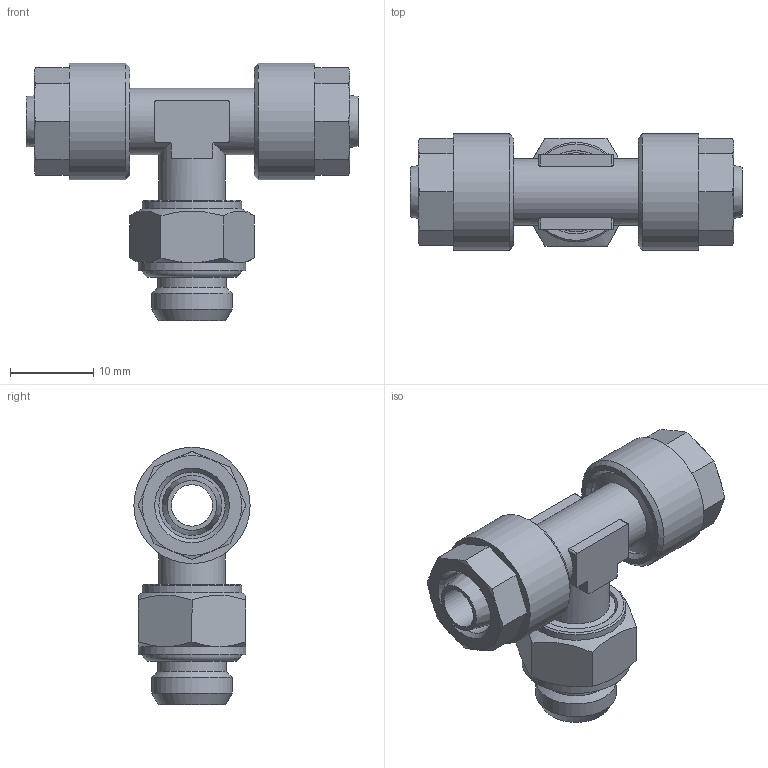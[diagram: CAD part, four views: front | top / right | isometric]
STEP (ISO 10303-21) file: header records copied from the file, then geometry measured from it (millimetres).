
FILE_DESCRIPTION(/* description */ (''),/* implementation_level */ '2;1');
FILE_NAME(/* name */ '12153_307DZ_8-6_G18_22.06.16',/* time_stamp */ '2016-06-22T08:15:30+02:00',/* author */ (''),/* organization */ (''),/* preprocessor_version */ 'ST-DEVELOPER v16.5',/* originating_system */ 'HiCAD 2016 2101.0 Build 254',/* authorisation */ '');
FILE_SCHEMA (('AUTOMOTIVE_DESIGN { 1 0 10303 214 1 1 1 1 }'));
Length unit declared in the file: millimetre
Products named in the file (6): Root; 12153_Anschluss; 17006; OR 7.2X1.9; 12153_Gewinde
Assembly tree (5 placements, depth 2):
  Root
    12153_Anschluss
    17006
    17006
    OR 7.2X1.9
    12153_Gewinde
Bounding box: 40 x 14 x 31 mm (x, y, z)
Volume: 4657.3 mm3; surface area: 5891.1 mm2
Topology: 5 solids, 5 shells, 142 faces, 346 edges, 220 vertices
Faces by surface type: plane 58, cone 42, cylinder 37, torus 5
Full cylindrical faces by diameter (mm): 5 x2, 5.5 x1, 6.8 x2, 8 x4, 8.3 x1, 9.5 x1, 9.728 x1, 10 x1, 10.773 x2, 12 x3, 13 x1, 14 x2
Entity records: 9383 total; most frequent: CARTESIAN_POINT 3458, DIRECTION 714, PRESENTATION_STYLE_ASSIGNMENT 551, COLOUR_RGB 548, DRAUGHTING_PRE_DEFINED_CURVE_FONT 546, CURVE_STYLE 546, OVER_RIDING_STYLED_ITEM 546, ORIENTED_EDGE 546
